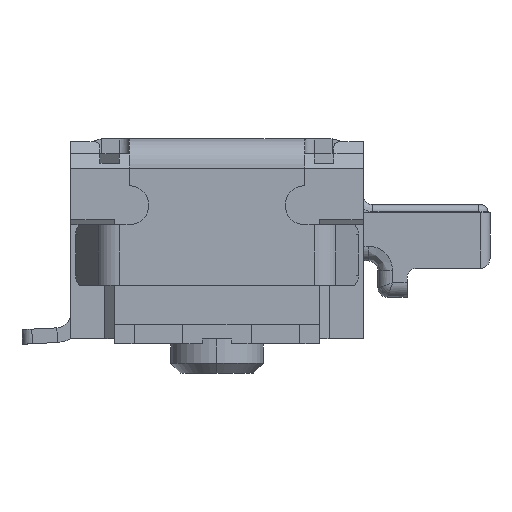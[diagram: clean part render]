
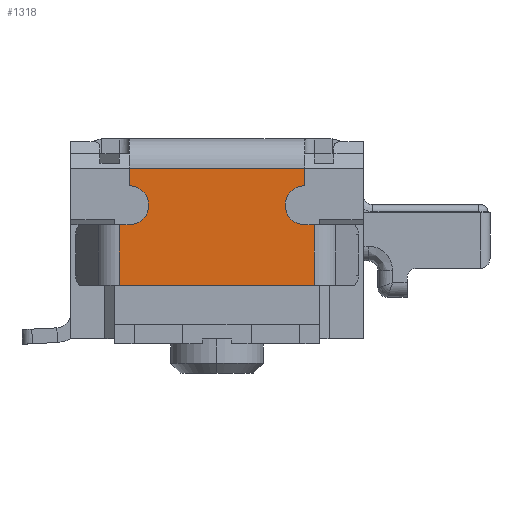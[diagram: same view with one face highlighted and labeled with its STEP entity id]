
A CAD part, front view. The second image highlights one B-rep face of the part: STEP entity #1318.
In plain terms, the highlighted planar face has unit normal (0, -1, 0).
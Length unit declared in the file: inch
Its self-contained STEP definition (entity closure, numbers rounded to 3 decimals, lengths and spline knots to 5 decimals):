
#1318=ADVANCED_FACE('',(#2794),#2795,.T.);
#2794=FACE_OUTER_BOUND('',#4481,.T.);
#2795=PLANE('',#4482);
#4481=EDGE_LOOP('',(#8756,#8757,#8758,#8759,#8760,#8761,#8762,#8763,#8764,#8765,#8766,#8767));
#4482=AXIS2_PLACEMENT_3D('',#8768,#8769,#8770);
#8756=ORIENTED_EDGE('',*,*,#11900,.T.);
#8757=ORIENTED_EDGE('',*,*,#11821,.T.);
#8758=ORIENTED_EDGE('',*,*,#11901,.T.);
#8759=ORIENTED_EDGE('',*,*,#11704,.T.);
#8760=ORIENTED_EDGE('',*,*,#11532,.T.);
#8761=ORIENTED_EDGE('',*,*,#11493,.T.);
#8762=ORIENTED_EDGE('',*,*,#11902,.T.);
#8763=ORIENTED_EDGE('',*,*,#11903,.T.);
#8764=ORIENTED_EDGE('',*,*,#11727,.T.);
#8765=ORIENTED_EDGE('',*,*,#10858,.T.);
#8766=ORIENTED_EDGE('',*,*,#10380,.F.);
#8767=ORIENTED_EDGE('',*,*,#11407,.T.);
#8768=CARTESIAN_POINT('',(-0.03937,-0.25984,0.07095));
#8769=DIRECTION('',(0.0,-1.0,0.0));
#8770=DIRECTION('',(1.0,0.0,0.0));
#10380=EDGE_CURVE('',#12572,#12574,#12575,.F.);
#10858=EDGE_CURVE('',#13386,#12574,#13387,.T.);
#11407=EDGE_CURVE('',#12572,#14205,#14207,.F.);
#11493=EDGE_CURVE('',#14331,#14329,#14332,.T.);
#11532=EDGE_CURVE('',#14165,#14331,#14385,.T.);
#11704=EDGE_CURVE('',#14601,#14165,#14602,.F.);
#11727=EDGE_CURVE('',#14629,#13386,#14630,.T.);
#11821=EDGE_CURVE('',#14744,#14742,#14745,.F.);
#11900=EDGE_CURVE('',#14205,#14744,#14840,.F.);
#11901=EDGE_CURVE('',#14742,#14601,#14841,.F.);
#11902=EDGE_CURVE('',#14329,#14842,#14843,.F.);
#11903=EDGE_CURVE('',#14842,#14629,#14844,.T.);
#12572=VERTEX_POINT('',#15708);
#12574=VERTEX_POINT('',#15710);
#12575=LINE('',#15711,#15712);
#13386=VERTEX_POINT('',#16872);
#13387=LINE('',#16873,#16874);
#14165=VERTEX_POINT('',#18029);
#14205=VERTEX_POINT('',#18094);
#14207=LINE('',#18097,#18098);
#14329=VERTEX_POINT('',#18270);
#14331=VERTEX_POINT('',#18272);
#14332=LINE('',#18273,#18274);
#14385=LINE('',#18368,#18369);
#14601=VERTEX_POINT('',#18710);
#14602=LINE('',#18711,#18712);
#14629=VERTEX_POINT('',#18753);
#14630=CIRCLE('',#18754,0.00787);
#14742=VERTEX_POINT('',#18933);
#14744=VERTEX_POINT('',#18936);
#14745=CIRCLE('',#18937,0.00787);
#14840=CIRCLE('',#19085,0.00787);
#14841=LINE('',#19086,#19087);
#14842=VERTEX_POINT('',#19088);
#14843=LINE('',#19089,#19090);
#14844=CIRCLE('',#19091,0.00787);
#15708=CARTESIAN_POINT('',(-0.03543,-0.25984,0.07095));
#15710=CARTESIAN_POINT('',(0.03543,-0.25984,0.07095));
#15711=CARTESIAN_POINT('',(0.03639,-0.25984,0.07095));
#15712=VECTOR('',#19674,1000.0);
#16872=CARTESIAN_POINT('',(0.03543,-0.25984,0.06386));
#16873=CARTESIAN_POINT('',(0.03543,-0.25984,0.07095));
#16874=VECTOR('',#20229,1000.0);
#18029=CARTESIAN_POINT('',(-0.03937,-0.25984,0.0237));
#18094=CARTESIAN_POINT('',(-0.03543,-0.25984,0.06386));
#18097=CARTESIAN_POINT('',(-0.03543,-0.25984,0.07095));
#18098=VECTOR('',#20758,1000.0);
#18270=CARTESIAN_POINT('',(0.03937,-0.25984,0.04811));
#18272=CARTESIAN_POINT('',(0.03937,-0.25984,0.0237));
#18273=CARTESIAN_POINT('',(0.03937,-0.25984,0.07095));
#18274=VECTOR('',#20851,1000.0);
#18368=CARTESIAN_POINT('',(-0.03937,-0.25984,0.0237));
#18369=VECTOR('',#20883,1000.0);
#18710=CARTESIAN_POINT('',(-0.03937,-0.25984,0.04811));
#18711=CARTESIAN_POINT('',(-0.03937,-0.25984,0.07095));
#18712=VECTOR('',#21048,1000.0);
#18753=CARTESIAN_POINT('',(0.02756,-0.25984,0.05598));
#18754=AXIS2_PLACEMENT_3D('',#21071,#21072,#21073);
#18933=CARTESIAN_POINT('',(-0.03543,-0.25984,0.04811));
#18936=CARTESIAN_POINT('',(-0.02756,-0.25984,0.05598));
#18937=AXIS2_PLACEMENT_3D('',#21150,#21151,#21152);
#19085=AXIS2_PLACEMENT_3D('',#21233,#21234,#21235);
#19086=CARTESIAN_POINT('',(-0.03937,-0.25984,0.04811));
#19087=VECTOR('',#21236,1000.0);
#19088=CARTESIAN_POINT('',(0.03543,-0.25984,0.04811));
#19089=CARTESIAN_POINT('',(-0.03937,-0.25984,0.04811));
#19090=VECTOR('',#21237,1000.0);
#19091=AXIS2_PLACEMENT_3D('',#21238,#21239,#21240);
#19674=DIRECTION('',(-1.0,0.0,0.));
#20229=DIRECTION('',(0.0,0.0,1.0));
#20758=DIRECTION('',(0.0,0.0,1.0));
#20851=DIRECTION('',(0.0,0.0,1.0));
#20883=DIRECTION('',(1.0,0.0,0.0));
#21048=DIRECTION('',(0.0,0.0,1.0));
#21071=CARTESIAN_POINT('',(0.03543,-0.25984,0.05598));
#21072=DIRECTION('',(0.0,1.0,0.));
#21073=DIRECTION('',(0.0,0.,-1.0));
#21150=CARTESIAN_POINT('',(-0.03543,-0.25984,0.05598));
#21151=DIRECTION('',(0.0,-1.0,0.0));
#21152=DIRECTION('',(1.0,0.0,0.0));
#21233=CARTESIAN_POINT('',(-0.03543,-0.25984,0.05598));
#21234=DIRECTION('',(0.0,-1.0,0.0));
#21235=DIRECTION('',(1.0,0.0,0.0));
#21236=DIRECTION('',(1.0,0.0,0.0));
#21237=DIRECTION('',(1.0,0.0,0.0));
#21238=CARTESIAN_POINT('',(0.03543,-0.25984,0.05598));
#21239=DIRECTION('',(0.0,1.0,0.));
#21240=DIRECTION('',(0.0,0.,-1.0));
